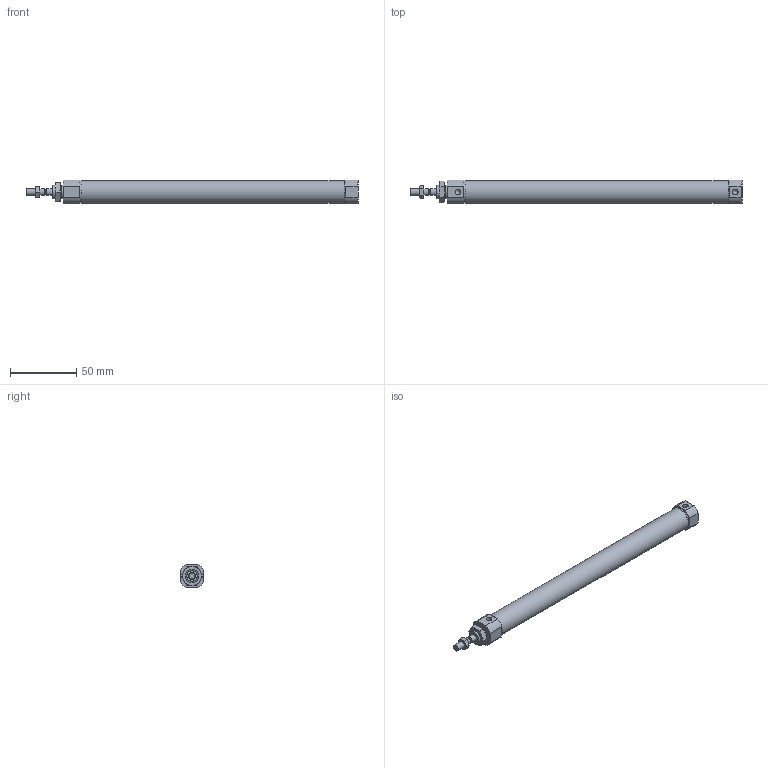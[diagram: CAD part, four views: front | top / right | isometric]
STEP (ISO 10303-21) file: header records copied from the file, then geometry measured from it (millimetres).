
FILE_DESCRIPTION((''),'2;1');
FILE_NAME('I:\3D電子目錄\氣缸\SBA\SBA\SBA16\SBA16x175.stp','2007-10-04T12:01:51',('66-2f-008'),(''),'Autodesk Inventor 11','Autodesk Inventor 11','');
FILE_SCHEMA(('AUTOMOTIVE_DESIGN { 1 0 10303 214 1 1 1 1 }'));
Length unit declared in the file: millimetre
Products named in the file (1): SBA16
Bounding box: 250 x 18 x 18 mm (x, y, z)
Volume: 54118.7 mm3; surface area: 13997.9 mm2
Topology: 1 solids, 1 shells, 88 faces, 192 edges, 117 vertices
Faces by surface type: plane 35, cone 30, cylinder 18, bspline 5
Full cylindrical faces by diameter (mm): 4 x1, 5 x3, 10 x3, 16.54 x2, 17.2 x1
Entity records: 2363 total; most frequent: CARTESIAN_POINT 637, DIRECTION 352, ORIENTED_EDGE 342, EDGE_CURVE 171, AXIS2_PLACEMENT_3D 153, EDGE_LOOP 116, VERTEX_POINT 113, FACE_OUTER_BOUND 88
